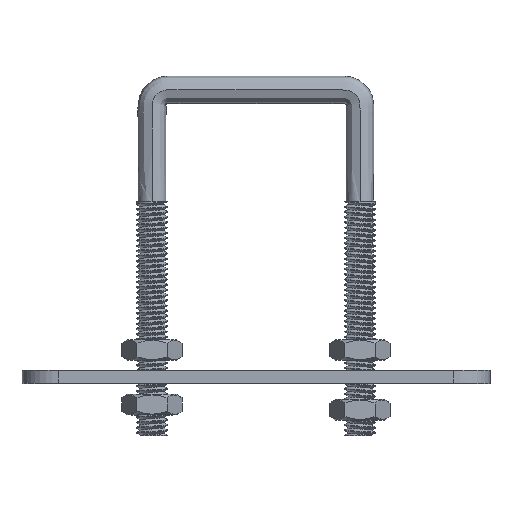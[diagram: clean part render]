
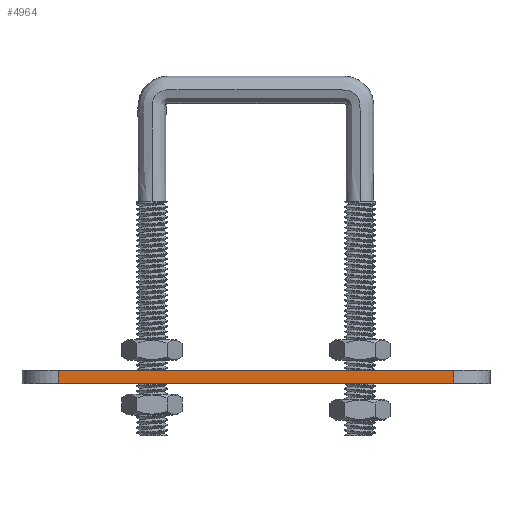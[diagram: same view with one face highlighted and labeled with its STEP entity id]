
A CAD part, top view. The second image highlights one B-rep face of the part: STEP entity #4964.
In plain terms, the highlighted planar face has unit normal (0, 0, 1).
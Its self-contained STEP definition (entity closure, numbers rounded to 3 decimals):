
#23 = VECTOR ( 'NONE', #6745, 1000. ) ;
#657 = EDGE_CURVE ( 'NONE', #1468, #16831, #14573, .T. ) ;
#979 = CARTESIAN_POINT ( 'NONE',  ( 38., 2.5, 25.5 ) ) ;
#1468 = VERTEX_POINT ( 'NONE', #12026 ) ;
#1639 = PLANE ( 'NONE',  #9288 ) ;
#2327 = VECTOR ( 'NONE', #5045, 1000. ) ;
#2781 = ORIENTED_EDGE ( 'NONE', *, *, #7080, .F. ) ;
#2879 = CARTESIAN_POINT ( 'NONE',  ( -38., 2.5, 25.5 ) ) ;
#3107 = DIRECTION ( 'NONE',  ( 0., 0., -1. ) ) ;
#3271 = VECTOR ( 'NONE', #4780, 1000. ) ;
#3791 = ORIENTED_EDGE ( 'NONE', *, *, #657, .T. ) ;
#3938 = LINE ( 'NONE', #13937, #23 ) ;
#4780 = DIRECTION ( 'NONE',  ( 0., 1., 0. ) ) ;
#4964 = ADVANCED_FACE ( 'NONE', ( #8640 ), #1639, .F. ) ;
#5045 = DIRECTION ( 'NONE',  ( 1., 0., 0. ) ) ;
#5255 = CARTESIAN_POINT ( 'NONE',  ( 0., 0., 25.5 ) ) ;
#6231 = CARTESIAN_POINT ( 'NONE',  ( -38., 0., 25.5 ) ) ;
#6715 = CARTESIAN_POINT ( 'NONE',  ( 0., 2.5, 25.5 ) ) ;
#6745 = DIRECTION ( 'NONE',  ( 0., -1., 0. ) ) ;
#7080 = EDGE_CURVE ( 'NONE', #10026, #16831, #12977, .T. ) ;
#7427 = ORIENTED_EDGE ( 'NONE', *, *, #8889, .T. ) ;
#7451 = VERTEX_POINT ( 'NONE', #6231 ) ;
#8640 = FACE_OUTER_BOUND ( 'NONE', #15030, .T. ) ;
#8889 = EDGE_CURVE ( 'NONE', #7451, #1468, #17534, .T. ) ;
#9288 = AXIS2_PLACEMENT_3D ( 'NONE', #10463, #3107, #13401 ) ;
#9820 = DIRECTION ( 'NONE',  ( 1., 0., 0. ) ) ;
#10026 = VERTEX_POINT ( 'NONE', #2879 ) ;
#10463 = CARTESIAN_POINT ( 'NONE',  ( 0., 2.5, 25.5 ) ) ;
#12026 = CARTESIAN_POINT ( 'NONE',  ( 38., 0., 25.5 ) ) ;
#12977 = LINE ( 'NONE', #6715, #16422 ) ;
#13235 = EDGE_CURVE ( 'NONE', #10026, #7451, #3938, .T. ) ;
#13401 = DIRECTION ( 'NONE',  ( -1., 0., 0. ) ) ;
#13577 = CARTESIAN_POINT ( 'NONE',  ( 38., 2.5, 25.5 ) ) ;
#13937 = CARTESIAN_POINT ( 'NONE',  ( -38., 0., 25.5 ) ) ;
#14573 = LINE ( 'NONE', #13577, #3271 ) ;
#15030 = EDGE_LOOP ( 'NONE', ( #7427, #3791, #2781, #16394 ) ) ;
#16394 = ORIENTED_EDGE ( 'NONE', *, *, #13235, .T. ) ;
#16422 = VECTOR ( 'NONE', #9820, 1000. ) ;
#16831 = VERTEX_POINT ( 'NONE', #979 ) ;
#17534 = LINE ( 'NONE', #5255, #2327 ) ;
